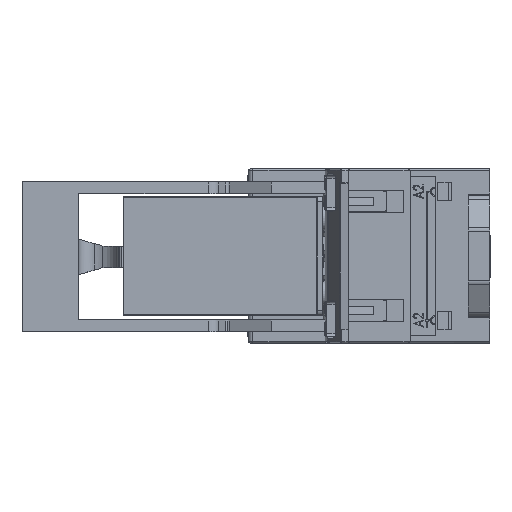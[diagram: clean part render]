
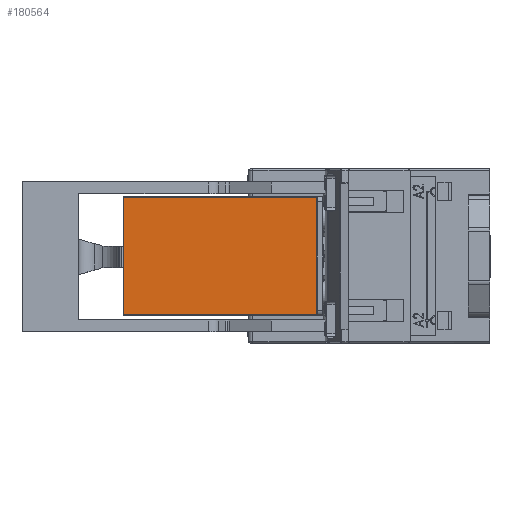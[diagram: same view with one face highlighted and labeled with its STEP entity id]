
A CAD part, left-side view. The second image highlights one B-rep face of the part: STEP entity #180564.
In plain terms, the highlighted planar face has unit normal (-1, 0, 0).
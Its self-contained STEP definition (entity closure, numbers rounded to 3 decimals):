
#16652 = VERTEX_POINT ( 'NONE', #167778 ) ;
#20896 = CARTESIAN_POINT ( 'NONE',  ( -13.2, 0.966, -10.351 ) ) ;
#24430 = VERTEX_POINT ( 'NONE', #95230 ) ;
#25142 = ORIENTED_EDGE ( 'NONE', *, *, #51822, .F. ) ;
#36223 = CARTESIAN_POINT ( 'NONE',  ( -13.2, 34.966, -10.551 ) ) ;
#47266 = DIRECTION ( 'NONE',  ( 0., 0., -1. ) ) ;
#47455 = CARTESIAN_POINT ( 'NONE',  ( -13.2, 34.966, -10.351 ) ) ;
#50695 = LINE ( 'NONE', #47455, #158733 ) ;
#50705 = CARTESIAN_POINT ( 'NONE',  ( -13.2, 0.966, -10.551 ) ) ;
#51822 = EDGE_CURVE ( 'NONE', #16652, #175292, #104930, .T. ) ;
#62600 = DIRECTION ( 'NONE',  ( 1., 0., 0. ) ) ;
#72117 = CARTESIAN_POINT ( 'NONE',  ( -13.2, 34.966, 10.249 ) ) ;
#92494 = ORIENTED_EDGE ( 'NONE', *, *, #203655, .T. ) ;
#94327 = FACE_OUTER_BOUND ( 'NONE', #158528, .T. ) ;
#95104 = ORIENTED_EDGE ( 'NONE', *, *, #128960, .F. ) ;
#95230 = CARTESIAN_POINT ( 'NONE',  ( -13.2, 34.966, -10.351 ) ) ;
#95422 = PLANE ( 'NONE',  #137821 ) ;
#104930 = LINE ( 'NONE', #72117, #161374 ) ;
#120472 = VERTEX_POINT ( 'NONE', #20896 ) ;
#123263 = VECTOR ( 'NONE', #133851, 1000. ) ;
#123495 = DIRECTION ( 'NONE',  ( 0., -1., 0. ) ) ;
#126550 = ORIENTED_EDGE ( 'NONE', *, *, #145512, .F. ) ;
#128960 = EDGE_CURVE ( 'NONE', #120472, #24430, #50695, .T. ) ;
#133851 = DIRECTION ( 'NONE',  ( 0., 0., 1. ) ) ;
#137821 = AXIS2_PLACEMENT_3D ( 'NONE', #145696, #62600, #47266 ) ;
#145512 = EDGE_CURVE ( 'NONE', #24430, #16652, #186023, .T. ) ;
#145696 = CARTESIAN_POINT ( 'NONE',  ( -13.2, 34.966, 10.449 ) ) ;
#145868 = CARTESIAN_POINT ( 'NONE',  ( -13.2, 0.966, 10.249 ) ) ;
#156451 = DIRECTION ( 'NONE',  ( 0., 0., 1. ) ) ;
#158528 = EDGE_LOOP ( 'NONE', ( #25142, #126550, #95104, #92494 ) ) ;
#158733 = VECTOR ( 'NONE', #179771, 1000. ) ;
#161374 = VECTOR ( 'NONE', #123495, 1000. ) ;
#167679 = LINE ( 'NONE', #50705, #123263 ) ;
#167778 = CARTESIAN_POINT ( 'NONE',  ( -13.2, 34.966, 10.249 ) ) ;
#175292 = VERTEX_POINT ( 'NONE', #145868 ) ;
#179771 = DIRECTION ( 'NONE',  ( 0., 1., 0. ) ) ;
#180564 = ADVANCED_FACE ( 'NONE', ( #94327 ), #95422, .F. ) ;
#186023 = LINE ( 'NONE', #36223, #197477 ) ;
#197477 = VECTOR ( 'NONE', #156451, 1000. ) ;
#203655 = EDGE_CURVE ( 'NONE', #120472, #175292, #167679, .T. ) ;
